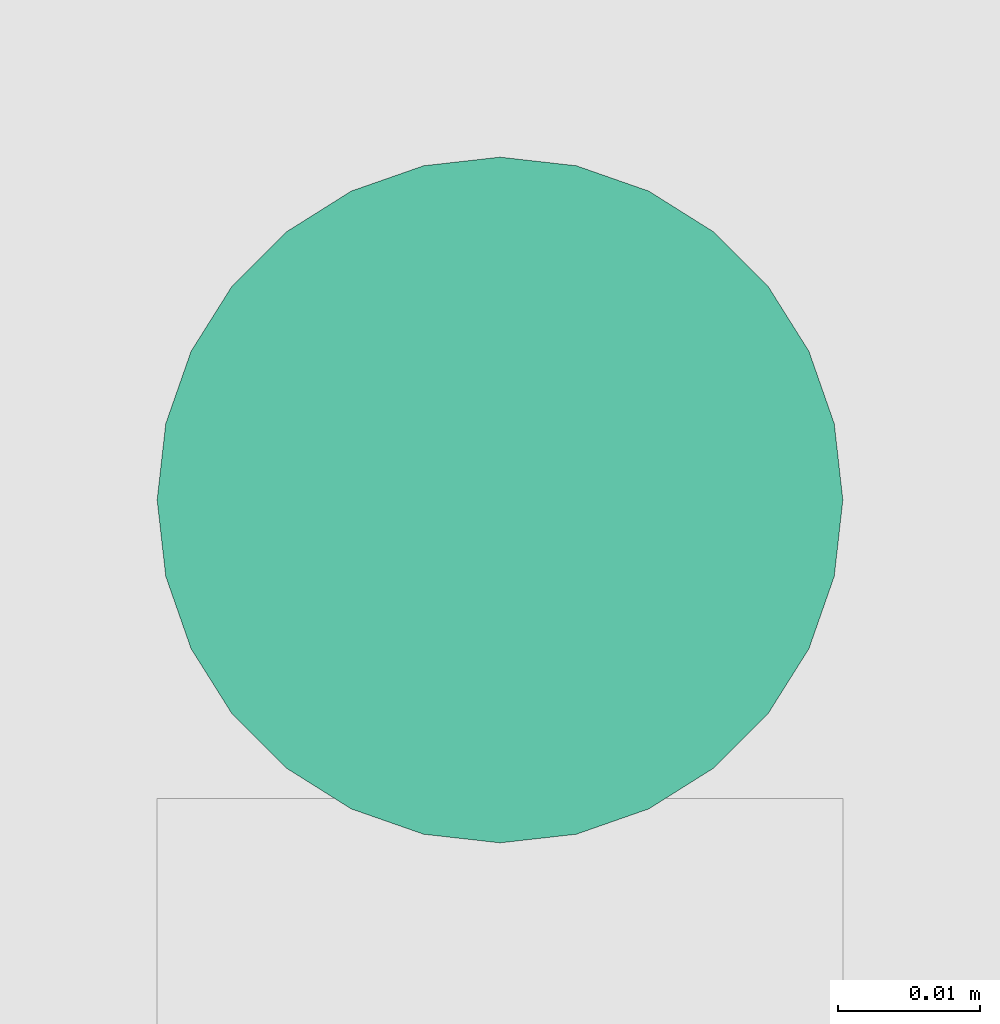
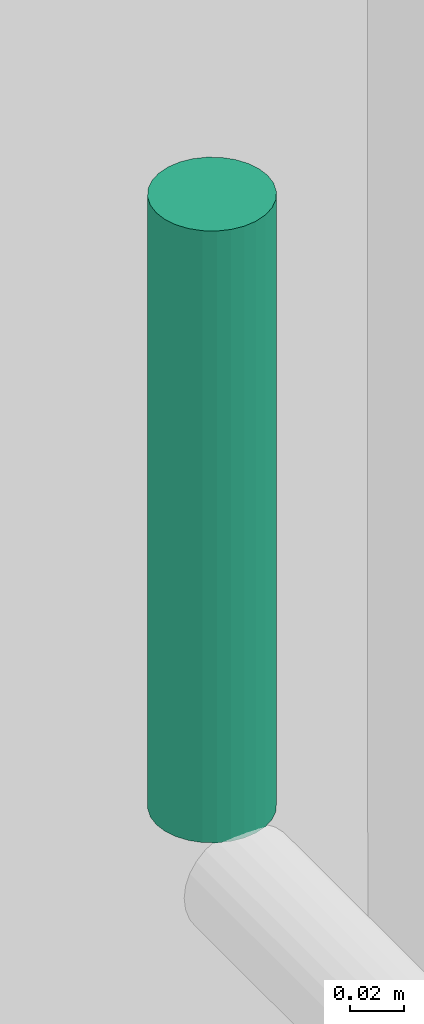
# One storey, part 41 of 71: 1 pipe segment.
"""IFC4 building model written with IfcOpenShell, lengths in centimetres."""

import ifcopenshell
import ifcopenshell.guid

model = None  # the IFC model being written
_history = None  # IfcOwnerHistory: only IFC2X3 demands one
_inside = {}  # id of a spatial element -> (the spatial element, [elements in it])
_under = {}  # id of a project, library or spatial element -> (it, [spatial elements below it])
_declared = {}  # id of a project -> (the project, [libraries it declares])
_typed = {}  # id of a type object -> (the type object, [elements of that type])
_made_of = {}  # id of a material, layer set ... -> (it, [elements and type objects made of it])


def new_model(schema):
    """Start an empty IFC model of exactly this schema.

    Asked for "IFC4X3", IfcOpenShell would pick the latest addendum, in which some entities
    have other attributes; the version numbers below select the first issue.
    IFC2X3 requires an IfcOwnerHistory on every rooted entity: one is made here for all.
    """
    global model, _history
    if schema == "IFC4X3":
        model = ifcopenshell.file(schema_version=(4, 3, 0, 0))
    else:
        model = ifcopenshell.file(schema=schema)
    _inside.clear()
    _under.clear()
    _declared.clear()
    _typed.clear()
    _made_of.clear()
    _history = None
    if model.schema == "IFC2X3":
        org = make("IfcOrganization", Name="unknown")
        user = make(
            "IfcPersonAndOrganization",
            ThePerson=make("IfcPerson", FamilyName="unknown"),
            TheOrganization=org,
        )
        app = make(
            "IfcApplication",
            ApplicationDeveloper=org,
            Version="unknown",
            ApplicationFullName="unknown",
            ApplicationIdentifier="unknown",
        )
        _history = make(
            "IfcOwnerHistory",
            OwningUser=user,
            OwningApplication=app,
            ChangeAction="ADDED",
            CreationDate=0,
        )
    return model


def make(cls, **values):
    """One entity of the class cls with the attributes given. An attribute that is None is left unset."""
    return model.create_entity(
        cls, **{name: value for name, value in values.items() if value is not None}
    )


def entity(cls, *values):
    """Any entity or typed value of the class cls, its attributes in the order of the schema. None: left unset."""
    e = model.create_entity(cls)
    for i, value in enumerate(values):
        if value is not None:
            e[i] = value
    return e


def rooted(cls, **values):
    """An entity with a GlobalId (a new one), such as an element, a storey or a relation."""
    return make(cls, GlobalId=ifcopenshell.guid.new(), OwnerHistory=_history, **values)


def si_unit(unit_type, name, prefix=None):
    """IfcSIUnit, for example si_unit("LENGTHUNIT", "METRE", prefix="MILLI")."""
    return make("IfcSIUnit", UnitType=unit_type, Prefix=prefix, Name=name)


def converted_unit(unit_type, name, factor, base, dimensions=None, offset=None):
    """IfcConversionBasedUnit, such as the inch: factor (a typed value) times the base unit."""
    return make(
        "IfcConversionBasedUnit"
        if offset is None
        else "IfcConversionBasedUnitWithOffset",
        ConversionOffset=offset,
        Dimensions=None
        if dimensions is None
        else entity("IfcDimensionalExponents", *dimensions),
        UnitType=unit_type,
        Name=name,
        ConversionFactor=make(
            "IfcMeasureWithUnit", ValueComponent=factor, UnitComponent=base
        ),
    )


def derived_unit(unit_type, elements):
    """IfcDerivedUnit: a product of units, each with its exponent."""
    return make(
        "IfcDerivedUnit",
        Elements=[
            make("IfcDerivedUnitElement", Unit=unit, Exponent=power)
            for unit, power in elements
        ],
        UnitType=unit_type,
    )


def assignment(units):
    """IfcUnitAssignment: the units of a project."""
    return None if units is None else make("IfcUnitAssignment", Units=units)


def point(xyz):
    """IfcCartesianPoint."""
    return None if xyz is None else make("IfcCartesianPoint", Coordinates=xyz)


def direction(xyz):
    """IfcDirection."""
    return None if xyz is None else make("IfcDirection", DirectionRatios=xyz)


def frame(location, z_axis=None, x_axis=None):
    """IfcAxis2Placement3D, a coordinate frame: its origin and axes. An axis left out is left unset."""
    return make(
        "IfcAxis2Placement3D",
        Location=point(location),
        Axis=direction(z_axis),
        RefDirection=direction(x_axis),
    )


def origin():
    """The frame at (0, 0, 0) with its axes left unset."""
    return frame((0.0, 0.0, 0.0))


def place(relative_to, where):
    """IfcLocalPlacement: puts the frame where relative to a parent placement (None: the world)."""
    return make(
        "IfcLocalPlacement", PlacementRelTo=relative_to, RelativePlacement=where
    )


def context(
    kind, dimensions, precision=None, world=None, true_north=None, identifier=None
):
    """IfcGeometricRepresentationContext, for example the 3D "Model" context."""
    return make(
        "IfcGeometricRepresentationContext",
        ContextIdentifier=identifier,
        ContextType=kind,
        CoordinateSpaceDimension=dimensions,
        Precision=precision,
        WorldCoordinateSystem=world,
        TrueNorth=true_north,
    )


def subcontext(parent, identifier, kind, view, scale=None):
    """IfcGeometricRepresentationSubContext, for example "Body" below "Model"."""
    return make(
        "IfcGeometricRepresentationSubContext",
        ContextIdentifier=identifier,
        ContextType=kind,
        ParentContext=parent,
        TargetScale=scale,
        TargetView=view,
    )


def project(units=None, contexts=None):
    """IfcProject with its units and contexts."""
    return rooted(
        "IfcProject",
        Name="project",
        RepresentationContexts=contexts,
        UnitsInContext=assignment(units),
    )


def spatial(cls, under=None, at=None, **own):
    """A site, building, storey or space (cls), placed at a placement, below another one or the project."""
    s = rooted(cls, ObjectPlacement=at, **own)
    if under is not None:
        _under.setdefault(under.id(), (under, []))[1].append(s)
    return s


def point_list(points):
    """IfcCartesianPointList2D or 3D."""
    cls = (
        "IfcCartesianPointList2D" if len(points[0]) == 2 else "IfcCartesianPointList3D"
    )
    return make(cls, CoordList=points)


def arc(*indices):
    """IfcArcIndex: an arc through three numbered points of an indexed curve."""
    return model.create_entity("IfcArcIndex", indices)


def indexed_curve(points, segments=None, self_intersect=None):
    """IfcIndexedPolyCurve: lines and arcs through numbered points (the first is 1)."""
    return make(
        "IfcIndexedPolyCurve",
        Points=point_list(points),
        Segments=segments,
        SelfIntersect=self_intersect,
    )


def outline(outer, holes=None, kind="AREA"):
    """IfcArbitraryClosedProfileDef: a profile drawn as a closed curve; with holes, ...WithVoids."""
    if holes is None:
        return make("IfcArbitraryClosedProfileDef", ProfileType=kind, OuterCurve=outer)
    return make(
        "IfcArbitraryProfileDefWithVoids",
        ProfileType=kind,
        OuterCurve=outer,
        InnerCurves=holes,
    )


def extrude(swept, where, along, depth):
    """IfcExtrudedAreaSolid: the profile swept, set in the frame where, extruded along a direction by depth."""
    return make(
        "IfcExtrudedAreaSolid",
        SweptArea=swept,
        Position=where,
        ExtrudedDirection=direction(along),
        Depth=depth,
    )


def shape(context_of_items, identifier, shape_type, items):
    """IfcShapeRepresentation: the items that make up one representation, for example the "Body"."""
    return make(
        "IfcShapeRepresentation",
        ContextOfItems=context_of_items,
        RepresentationIdentifier=identifier,
        RepresentationType=shape_type,
        Items=items,
    )


def made_of(thing, what):
    """Note that an element or type object is made of a material, layer set ...; save() writes the relation."""
    if what is not None:
        _made_of.setdefault(what.id(), (what, []))[1].append(thing)
    return thing


def type_object(cls, material=None, **own):
    """A type object (cls), such as IfcWallType, which elements share."""
    return made_of(rooted(cls, **own), material)


def element(
    cls,
    number,
    at=None,
    inside=None,
    cuts=None,
    type_object=None,
    material=None,
    context=None,
    identifier="Body",
    shape_type=None,
    held_by="IfcProductDefinitionShape",
    body=None,
    shapes=None,
    **own,
):
    """One element of the class cls, such as IfcWall. Its Tag is "e" and its number.

    at: its placement. inside: the storey or other place that contains it. cuts: it is an
    opening in that element (IfcRelVoidsElement). A single representation is given by context,
    identifier, shape_type and body (its items); several are given by shapes. held_by: the class
    of the entity that holds the representations. save() writes the other relations.
    """
    e = rooted(cls, Tag="e%d" % number, ObjectPlacement=at, **own)
    if body is not None:
        shapes = [shape(context, identifier, shape_type, body)]
    if shapes is not None:
        e.Representation = make(held_by, Representations=shapes)
    if inside is not None:
        _inside.setdefault(inside.id(), (inside, []))[1].append(e)
    if cuts is not None:
        rooted(
            "IfcRelVoidsElement", RelatingBuildingElement=cuts, RelatedOpeningElement=e
        )
    if type_object is not None:
        _typed.setdefault(type_object.id(), (type_object, []))[1].append(e)
    return made_of(e, material)


def aggregate(whole, parts):
    """IfcRelAggregates: a whole, such as a stair, and the parts it consists of."""
    return rooted("IfcRelAggregates", RelatingObject=whole, RelatedObjects=parts)


def save(model, path):
    """Write the relations noted so far, then the file.

    IfcRelAggregates (storeys below a building ...), IfcRelContainedInSpatialStructure (elements
    in a storey), IfcRelDefinesByType, IfcRelAssociatesMaterial and IfcRelDeclares: one each for
    every whole, place, type object, material and project.
    """
    for whole, parts in _under.values():
        aggregate(whole, parts)
    for where, things in _inside.values():
        rooted(
            "IfcRelContainedInSpatialStructure",
            RelatedElements=things,
            RelatingStructure=where,
        )
    for kind, things in _typed.values():
        rooted("IfcRelDefinesByType", RelatedObjects=things, RelatingType=kind)
    for what, things in _made_of.values():
        rooted("IfcRelAssociatesMaterial", RelatedObjects=things, RelatingMaterial=what)
    for by, libraries in _declared.values():
        rooted("IfcRelDeclares", RelatingContext=by, RelatedDefinitions=libraries)
    model.write(path)


model = new_model("IFC4")

# Units and contexts
model_context = context("Model", 3, precision=0.001, world=origin(), true_north=direction((6.123233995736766e-17, 1.0)))
body_context = subcontext(model_context, "Body", "Model", "MODEL_VIEW")
ifc_project = project(units=[si_unit("LENGTHUNIT", "METRE", prefix="CENTI"), si_unit("AREAUNIT", "SQUARE_METRE"), si_unit("VOLUMEUNIT", "CUBIC_METRE"), derived_unit("THERMALTRANSMITTANCEUNIT", [(si_unit("MASSUNIT", "GRAM", prefix="KILO"), 1), (si_unit("THERMODYNAMICTEMPERATUREUNIT", "KELVIN"), -1), (si_unit("TIMEUNIT", "SECOND"), -3)]), converted_unit("PLANEANGLEUNIT", "DEGREE", entity("IfcPlaneAngleMeasure", 0.017453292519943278), si_unit("PLANEANGLEUNIT", "RADIAN"), dimensions=[0, 0, 0, 0, 0, 0, 0]), derived_unit("MASSDENSITYUNIT", [(si_unit("MASSUNIT", "GRAM", prefix="KILO"), 1), (si_unit("LENGTHUNIT", "METRE"), -3)]), derived_unit("VAPORPERMEABILITYUNIT", [(si_unit("LENGTHUNIT", "METRE"), -1), (si_unit("TIMEUNIT", "SECOND"), 1)]), derived_unit("USERDEFINED", [(si_unit("MASSUNIT", "GRAM", prefix="KILO"), 1), (si_unit("TIMEUNIT", "SECOND"), -3), (si_unit("LENGTHUNIT", "METRE"), 3), (si_unit("ELECTRICCURRENTUNIT", "AMPERE"), -2)]), derived_unit("SPECIFICHEATCAPACITYUNIT", [(si_unit("THERMODYNAMICTEMPERATUREUNIT", "KELVIN"), -1), (si_unit("LENGTHUNIT", "METRE"), 2), (si_unit("TIMEUNIT", "SECOND"), -2)]), derived_unit("THERMALCONDUCTANCEUNIT", [(si_unit("MASSUNIT", "GRAM", prefix="KILO"), 1), (si_unit("THERMODYNAMICTEMPERATUREUNIT", "KELVIN"), -1), (si_unit("TIMEUNIT", "SECOND"), -3), (si_unit("LENGTHUNIT", "METRE"), 1)]), si_unit("PRESSUREUNIT", "PASCAL"), derived_unit("MODULUSOFELASTICITYUNIT", [(si_unit("MASSUNIT", "GRAM", prefix="KILO"), 1), (si_unit("LENGTHUNIT", "METRE"), -1), (si_unit("TIMEUNIT", "SECOND"), -2)]), derived_unit("THERMALEXPANSIONCOEFFICIENTUNIT", [(si_unit("THERMODYNAMICTEMPERATUREUNIT", "KELVIN"), -1)])], contexts=[model_context])

# Site, building, storey
site_placement = place(None, origin())
site = spatial("IfcSite", under=ifc_project, at=site_placement, Name="Default", CompositionType="ELEMENT")
building_placement = place(site_placement, origin())
building = spatial("IfcBuilding", under=site, at=building_placement, Name="IDS Escape Game Building", CompositionType="ELEMENT")
storey_placement = place(building_placement, frame((0.0, 0.0, 400.0)))
storey = spatial("IfcBuildingStorey", under=building, at=storey_placement, Name="01_First Floor", CompositionType="ELEMENT", Elevation=399.99999999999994)

# Pipe segment
pipe_segment_type = type_object("IfcPipeSegmentType", Name="Pipe Types:Piping Aluminum", PredefinedType="NOTDEFINED")
pipe_segment_placement = place(storey_placement, origin())
element("IfcPipeSegment", 1, at=pipe_segment_placement, inside=storey, type_object=pipe_segment_type, Name="Pipe Types:Piping Aluminum", ObjectType="Pipe Types:Piping Aluminum", PredefinedType="NOTDEFINED", context=body_context, shape_type="SweptSolid", body=[
    extrude(outline(indexed_curve([(2.412999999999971, 0.0), (1.7062486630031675, 1.7062486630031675), (0.0, 2.412999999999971), (-1.7062486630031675, 1.7062486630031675), (-2.412999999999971, 0.0), (-1.7062486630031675, -1.7062486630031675), (0.0, -2.412999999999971), (1.7062486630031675, -1.7062486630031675)], segments=[arc(1, 2, 3), arc(3, 4, 5), arc(5, 6, 7), arc(7, 8, 1)], self_intersect=False)), frame((768.0467168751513, 1509.264827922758, 244.09999999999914), z_axis=(0.0, 0.0, 1.0), x_axis=(-1.0, 0.0, 0.0)), (0.0, 0.0, 1.0), 27.900000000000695),
])

save(model, "model.ifc")
